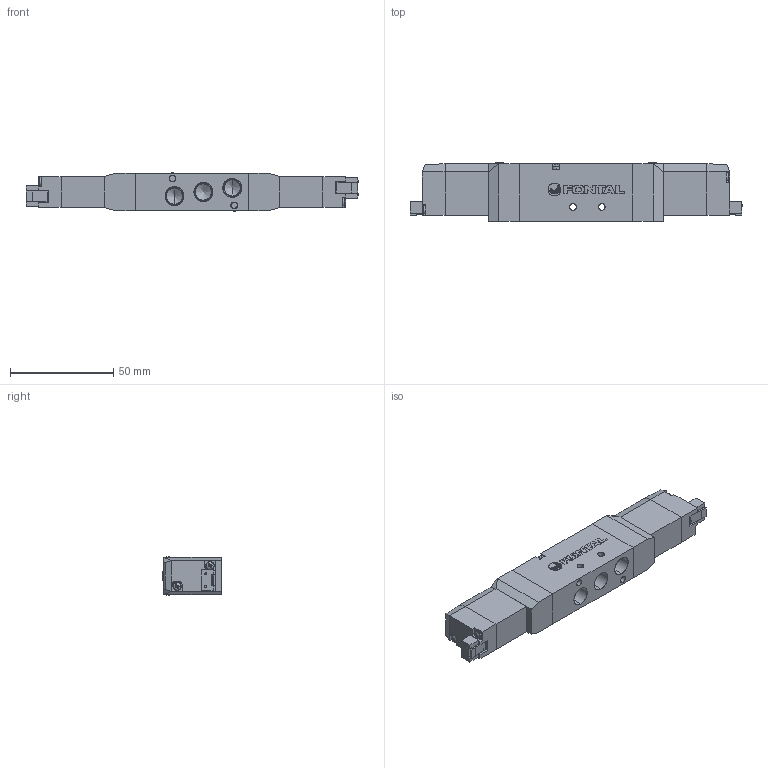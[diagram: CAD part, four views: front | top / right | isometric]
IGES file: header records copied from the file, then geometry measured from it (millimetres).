
Start section: SolidWorks IGES file using analytic representation for surfaces
Global section: file name: D:\Custom\3D繪製\PC\PC13\RCD3413-01-#-SP-#.IGS,1; native system: 5HSolidWorks 2014; preprocessor: SolidWorks 2014; author: Chieh_Lu; date: 150915.184035; units: millimetre
Bounding box: 161 x 28.5 x 18.6 mm (x, y, z)
Surface area: 24207.1 mm2 (no closed solid volume)
Topology: 0 solids, 0 shells, 618 faces, 5486 edges, 5464 vertices
Faces by surface type: bspline 422, revolution 196
